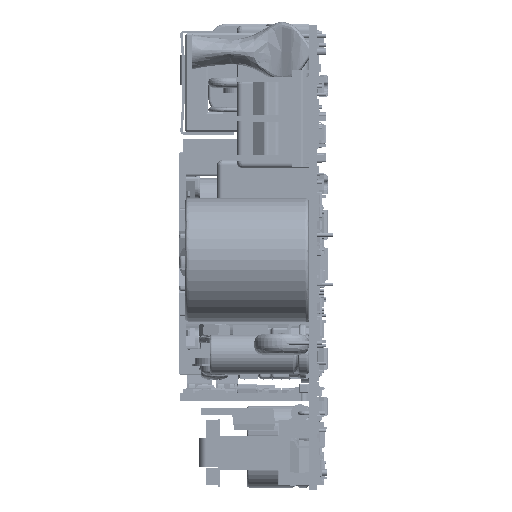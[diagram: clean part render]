
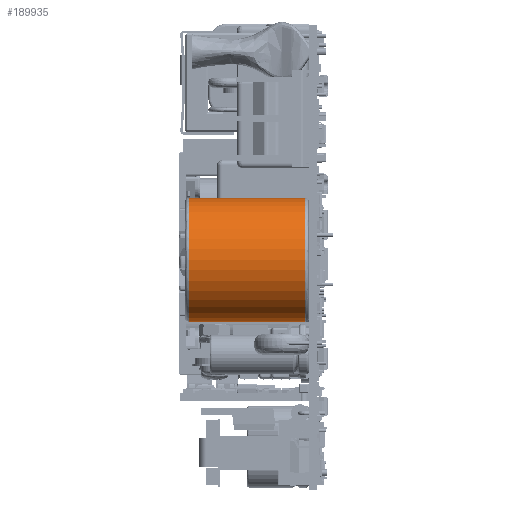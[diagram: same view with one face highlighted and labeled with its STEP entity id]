
A CAD part, left-side view. The second image highlights one B-rep face of the part: STEP entity #189935.
In plain terms, the highlighted cylindrical face has radius 12.5 mm (diameter 25 mm), a partial arc.
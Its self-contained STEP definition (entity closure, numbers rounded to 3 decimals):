
#490 = ORIENTED_EDGE ( 'NONE', *, *, #138159, .T. ) ;
#676 = ORIENTED_EDGE ( 'NONE', *, *, #138149, .T. ) ;
#684 = ORIENTED_EDGE ( 'NONE', *, *, #138076, .F. ) ;
#917 = ORIENTED_EDGE ( 'NONE', *, *, #138245, .T. ) ;
#9862 = CARTESIAN_POINT ( 'NONE',  ( 12.5, 0., 24.25 ) ) ;
#9870 = CARTESIAN_POINT ( 'NONE',  ( -12.5, 0., 24.25 ) ) ;
#9881 = CARTESIAN_POINT ( 'NONE',  ( -12.5, 0., 0.75 ) ) ;
#9885 = CARTESIAN_POINT ( 'NONE',  ( 12.5, 0., 0.75 ) ) ;
#67082 = FACE_OUTER_BOUND ( 'NONE', #207040, .T. ) ;
#67145 = CYLINDRICAL_SURFACE ( 'NONE', #132711, 12.5 ) ;
#67148 = CARTESIAN_POINT ( 'NONE',  ( 0., 0., 25. ) ) ;
#67177 = DIRECTION ( 'NONE',  ( 0., 0., -1. ) ) ;
#67179 = DIRECTION ( 'NONE',  ( -1., 0., 0. ) ) ;
#77866 = LINE ( 'NONE', #77869, #240304 ) ;
#77869 = CARTESIAN_POINT ( 'NONE',  ( -12.5, 0., 25. ) ) ;
#77871 = DIRECTION ( 'NONE',  ( 0., 0., -1. ) ) ;
#78344 = CARTESIAN_POINT ( 'NONE',  ( 0., 0., 24.25 ) ) ;
#78345 = DIRECTION ( 'NONE',  ( 0., 0., -1. ) ) ;
#78347 = DIRECTION ( 'NONE',  ( -1., 0., 0. ) ) ;
#78356 = LINE ( 'NONE', #78372, #240205 ) ;
#78372 = CARTESIAN_POINT ( 'NONE',  ( 12.5, 0., 25. ) ) ;
#78377 = DIRECTION ( 'NONE',  ( 0., 0., -1. ) ) ;
#91677 = CARTESIAN_POINT ( 'NONE',  ( 0., 0., 0.75 ) ) ;
#91678 = DIRECTION ( 'NONE',  ( 0., 0., 1. ) ) ;
#91679 = DIRECTION ( 'NONE',  ( -1., 0., 0. ) ) ;
#132711 = AXIS2_PLACEMENT_3D ( 'NONE', #67148, #67177, #67179 ) ;
#138076 = EDGE_CURVE ( 'NONE', #277836, #277868, #77866, .T. ) ;
#138149 = EDGE_CURVE ( 'NONE', #277836, #277838, #240215, .T. ) ;
#138159 = EDGE_CURVE ( 'NONE', #277838, #277907, #78356, .T. ) ;
#138245 = EDGE_CURVE ( 'NONE', #277907, #277868, #239994, .T. ) ;
#189935 = ADVANCED_FACE ( 'NONE', ( #67082 ), #67145, .T. ) ;
#207040 = EDGE_LOOP ( 'NONE', ( #676, #490, #917, #684 ) ) ;
#239994 = CIRCLE ( 'NONE', #239996, 12.5 ) ;
#239996 = AXIS2_PLACEMENT_3D ( 'NONE', #91677, #91678, #91679 ) ;
#240205 = VECTOR ( 'NONE', #78377, 1000. ) ;
#240209 = AXIS2_PLACEMENT_3D ( 'NONE', #78344, #78345, #78347 ) ;
#240215 = CIRCLE ( 'NONE', #240209, 12.5 ) ;
#240304 = VECTOR ( 'NONE', #77871, 1000. ) ;
#277836 = VERTEX_POINT ( 'NONE', #9870 ) ;
#277838 = VERTEX_POINT ( 'NONE', #9862 ) ;
#277868 = VERTEX_POINT ( 'NONE', #9881 ) ;
#277907 = VERTEX_POINT ( 'NONE', #9885 ) ;
